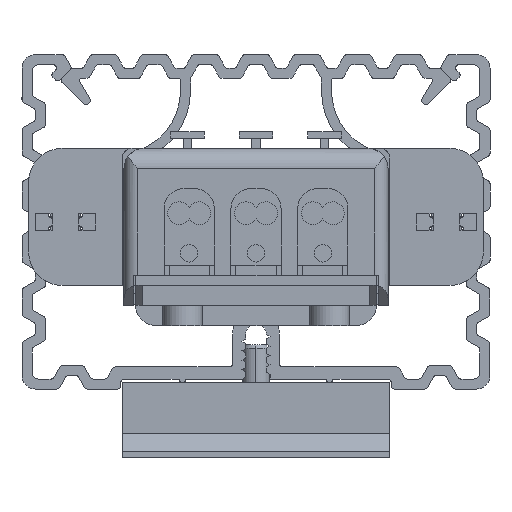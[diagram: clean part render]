
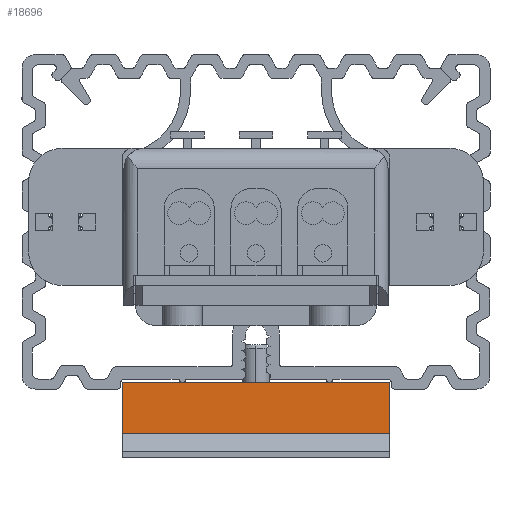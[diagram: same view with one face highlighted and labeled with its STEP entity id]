
A CAD part, front view. The second image highlights one B-rep face of the part: STEP entity #18696.
In plain terms, the highlighted planar face has unit normal (0, -1, 0).
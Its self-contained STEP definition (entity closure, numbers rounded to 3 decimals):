
#4603 = DIRECTION ( 'NONE',  ( 0., 0., -1. ) ) ;
#4604 = VECTOR ( 'NONE', #4603, 1000. ) ;
#4605 = LINE ( 'NONE', #4622, #4604 ) ;
#4622 = CARTESIAN_POINT ( 'NONE',  ( -20., -14.75, -1.4 ) ) ;
#5575 = VERTEX_POINT ( 'NONE', #64759 ) ;
#5628 = EDGE_CURVE ( 'NONE', #5575, #5633, #65037, .T. ) ;
#5633 = VERTEX_POINT ( 'NONE', #65027 ) ;
#13506 = VECTOR ( 'NONE', #13557, 1000. ) ;
#13534 = DIRECTION ( 'NONE',  ( 0., 0., -1. ) ) ;
#13538 = DIRECTION ( 'NONE',  ( 1., 0., 0. ) ) ;
#13539 = DIRECTION ( 'NONE',  ( 0., -1., 0. ) ) ;
#13540 = CARTESIAN_POINT ( 'NONE',  ( 20., -14.75, -4.555 ) ) ;
#13541 = LINE ( 'NONE', #13540, #13556 ) ;
#13544 = AXIS2_PLACEMENT_3D ( 'NONE', #13548, #13539, #13538 ) ;
#13548 = CARTESIAN_POINT ( 'NONE',  ( 20., -14.75, -1.4 ) ) ;
#13550 = FACE_OUTER_BOUND ( 'NONE', #18698, .T. ) ;
#13554 = PLANE ( 'NONE',  #13544 ) ;
#13556 = VECTOR ( 'NONE', #13534, 1000. ) ;
#13557 = DIRECTION ( 'NONE',  ( 1., 0., 0. ) ) ;
#13558 = CARTESIAN_POINT ( 'NONE',  ( -20., -14.75, 1. ) ) ;
#13568 = LINE ( 'NONE', #13558, #13506 ) ;
#13602 = CARTESIAN_POINT ( 'NONE',  ( 20., -14.75, 1. ) ) ;
#18686 = EDGE_CURVE ( 'NONE', #28156, #18702, #13568, .T. ) ;
#18688 = ORIENTED_EDGE ( 'NONE', *, *, #5628, .T. ) ;
#18689 = ORIENTED_EDGE ( 'NONE', *, *, #18686, .F. ) ;
#18694 = ORIENTED_EDGE ( 'NONE', *, *, #79377, .T. ) ;
#18696 = ADVANCED_FACE ( 'NONE', ( #13550 ), #13554, .T. ) ;
#18697 = ORIENTED_EDGE ( 'NONE', *, *, #18699, .F. ) ;
#18698 = EDGE_LOOP ( 'NONE', ( #18697, #18689, #18694, #18688 ) ) ;
#18699 = EDGE_CURVE ( 'NONE', #18702, #5633, #13541, .T. ) ;
#18702 = VERTEX_POINT ( 'NONE', #13602 ) ;
#28156 = VERTEX_POINT ( 'NONE', #57773 ) ;
#57773 = CARTESIAN_POINT ( 'NONE',  ( -20., -14.75, 1. ) ) ;
#64759 = CARTESIAN_POINT ( 'NONE',  ( -20., -14.75, -6.7 ) ) ;
#65027 = CARTESIAN_POINT ( 'NONE',  ( 20., -14.75, -6.7 ) ) ;
#65032 = DIRECTION ( 'NONE',  ( 1., 0., 0. ) ) ;
#65033 = VECTOR ( 'NONE', #65032, 1000. ) ;
#65036 = CARTESIAN_POINT ( 'NONE',  ( 20., -14.75, -6.7 ) ) ;
#65037 = LINE ( 'NONE', #65036, #65033 ) ;
#79377 = EDGE_CURVE ( 'NONE', #28156, #5575, #4605, .T. ) ;
